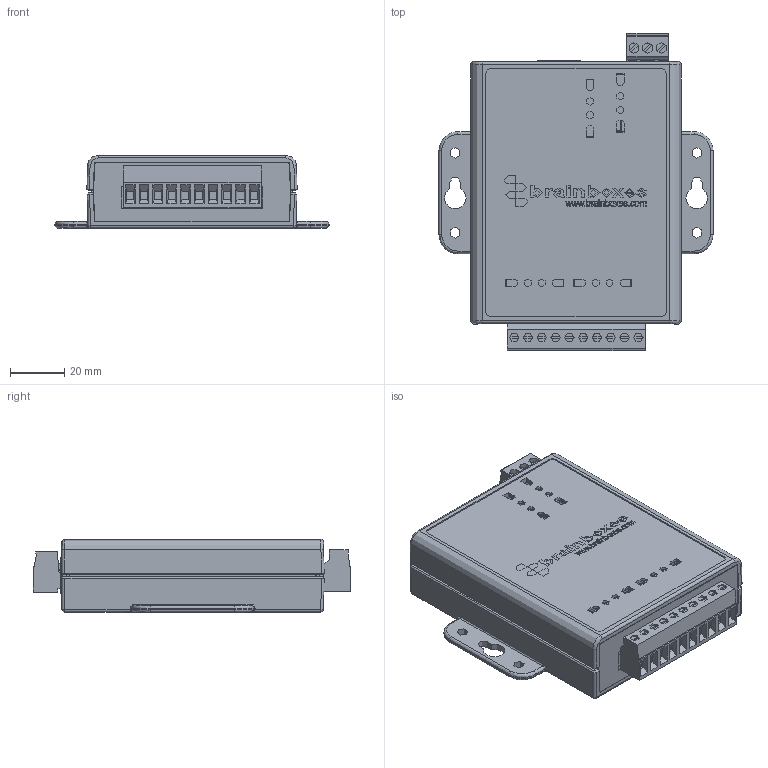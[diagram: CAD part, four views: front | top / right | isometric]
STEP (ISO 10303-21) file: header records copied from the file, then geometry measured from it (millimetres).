
FILE_DESCRIPTION(('STEP AP214'),'1');
FILE_NAME('ED-008 Cased 3D Step.step','2020-12-17T13:51:41',(' '),(' '),'Spatial InterOp 3D','XD3DPlugin XRACreate',' ');
FILE_SCHEMA(('automotive_design'));
Length unit declared in the file: millimetre
Products named in the file (51): Submodel-Input_S\SMD_ELEC_D.xtd; SMD_ELEC_D; Submodel-7547UF50V_part_simplified_SMD_ELEC_D; DesignRootModel; Submodel-Input_S\50HEA2X3.xtd; 50HEA2X3; Submodel-50HEA3X2_part_simplified_H100MIL2X3; Submodel-Input_S\82HEA5MMTBX3.xtd; 82HEA5MMTBX3; Submodel-82HEA5MMTBX3_part_simplified_TB_5MM_3; Submodel-Input_S\82HEA5MMTBX10.xtd; 82HEA5MMTBX10; Submodel-82HEA5MMTBX10_part_simplified_TB_5MM_10; Submodel-Input_S\50HEA3X1.xtd; 50HEA3X1; Submodel-50HEA3X1_part_simplified_H100MIL1X3; Submodel-Input_S\00MAGJACKILED.xtd; 00MAGJACKILED; Submodel-00MAGJACKILED_part_simplified_MAGJACK_LEDS; Submodel-Input_S\6610UH5A5.xtd; 6610UH5A5; Submodel-6610UH5A5_part_simplified_SRR1260; Submodel-Input_S\40SMTBUTTON_0.xtd; 40SMTBUTTON_0; Submodel-40SMTBUTTON_part_simplified_SMTBUTTON; Submodel-Input_S\SMC.xtd; SMC; Submodel-55TZ1K5SMC36V_part_simplified_SMC; Submodel-Input_S\50HEA4X2.xtd; 50HEA4X2; Submodel-50HEA4X2_part_simplified_H100MIL2X4; uid__9223372036854780740; Submodel-AssyDefn_26; BrainboxesLogo.step; Submodel-AssyDefn_25; CamdenEndPanel.sat; Submodel-AssyDefn_24; 82PLUG5MMTBX3.sat; Submodel-AssyDefn_23; 82PLUG5MMTBX10_1.sat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
Assembly tree (58 placements, depth 5):
  ED-008 Cased 3D Step
    DesignRootModel
      Submodel-7547UF50V_part_simplified_SMD_ELEC_D
        Submodel-Input_S\SMD_ELEC_D.xtd
          SMD_ELEC_D
      Submodel-50HEA3X2_part_simplified_H100MIL2X3  x4
        Submodel-Input_S\50HEA2X3.xtd
          50HEA2X3
      Submodel-82HEA5MMTBX3_part_simplified_TB_5MM_3
        Submodel-Input_S\82HEA5MMTBX3.xtd
          82HEA5MMTBX3
      Submodel-82HEA5MMTBX10_part_simplified_TB_5MM_10
        Submodel-Input_S\82HEA5MMTBX10.xtd
          82HEA5MMTBX10
      Submodel-50HEA3X1_part_simplified_H100MIL1X3
        Submodel-Input_S\50HEA3X1.xtd
          50HEA3X1
      Submodel-00MAGJACKILED_part_simplified_MAGJACK_LEDS
        Submodel-Input_S\00MAGJACKILED.xtd
          00MAGJACKILED
      Submodel-6610UH5A5_part_simplified_SRR1260
        Submodel-Input_S\6610UH5A5.xtd
          6610UH5A5
      Submodel-40SMTBUTTON_part_simplified_SMTBUTTON
        Submodel-Input_S\40SMTBUTTON_0.xtd
          40SMTBUTTON_0
      Submodel-55TZ1K5SMC36V_part_simplified_SMC  x3
        Submodel-Input_S\SMC.xtd
          SMC
      Submodel-50HEA4X2_part_simplified_H100MIL2X4
        Submodel-Input_S\50HEA4X2.xtd
          50HEA4X2
      uid__9223372036854780740
      Submodel-AssyDefn_26  x2
        BrainboxesLogo.step
      Submodel-AssyDefn_25  x2
        CamdenEndPanel.sat
      Submodel-AssyDefn_24
        82PLUG5MMTBX3.sat
      Submodel-AssyDefn_23
        82PLUG5MMTBX10_1.sat
      Submodel-AssyDefn_22
        00ESUSCASELID.sat
      Submodel-AssyDefn_21
        00ESUSCASEBASE.sat
      Submodel-DATUM_2441444698_part_DATUM
        Submodel-noModelForPart_DATUM_2441444698
          placementOutline
      Submodel-MOUNTINGHOLE_2132796670_part_MOUNTINGHOLE  x2
        Submodel-noModelForPart_MOUNTINGHOLE_2132796670
          placementOutline
Bounding box: 101 x 117.1 x 27.1 mm (x, y, z)
Volume: 77609 mm3; surface area: 91933.7 mm2
Topology: 161 solids, 161 shells, 7660 faces, 19668 edges, 12478 vertices
Faces by surface type: plane 5920, cylinder 958, bspline 638, cone 71, torus 44, sphere 29
Full cylindrical faces by diameter (mm): 0.6 x2, 3.81 x1
Entity records: 247371 total; most frequent: CARTESIAN_POINT 41579, ORIENTED_EDGE 32414, DIRECTION 30467, EDGE_CURVE 16207, LINE 13103, VECTOR 13103, VERTEX_POINT 10248, AXIS2_PLACEMENT_3D 8682
